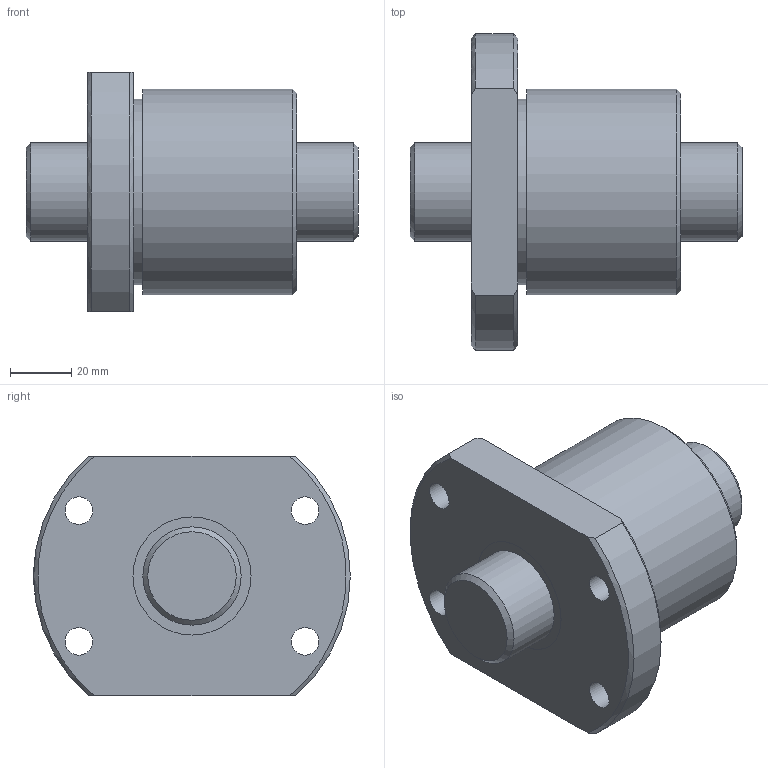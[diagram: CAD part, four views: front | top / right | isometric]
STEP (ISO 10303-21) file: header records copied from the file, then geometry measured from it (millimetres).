
FILE_DESCRIPTION(/* description */ ('STEP AP203'),/* implementation_level */ '2;1');
FILE_NAME(/* name */ 'BTK3210V-2.6ZZ+108LC7T_000',/* time_stamp */ '2025-01-16T07:57:58+01:00',/* author */ ('License CC BY-ND 4.0'),/* organization */ ('CADENAS'),/* preprocessor_version */ 'ST-DEVELOPER v19.3',/* originating_system */ 'PARTsolutions',/* authorisation */ ' ');
FILE_SCHEMA (('CONFIG_CONTROL_DESIGN'));
Length unit declared in the file: millimetre
Products named in the file (3): BTK3210V-2.6ZZ+108LC7T_000; BTK 3210V-2.600 Shaft; BTK 3210V-2.6ZZ Nut
Assembly tree (2 placements, depth 2):
  BTK3210V-2.6ZZ+108LC7T_000
    BTK 3210V-2.600 Shaft
    BTK 3210V-2.6ZZ Nut
Bounding box: 108 x 103 x 78 mm (x, y, z)
Volume: 319472.8 mm3; surface area: 50217.6 mm2
Topology: 2 solids, 2 shells, 31 faces, 66 edges, 43 vertices
Faces by surface type: cylinder 13, plane 10, cone 8
Full cylindrical faces by diameter (mm): 4.917 x1, 9 x4, 32 x2, 38.4 x2, 60.3 x1, 67 x1
Entity records: 887 total; most frequent: CARTESIAN_POINT 170, DIRECTION 140, ORIENTED_EDGE 100, AXIS2_PLACEMENT_3D 66, EDGE_LOOP 62, FACE_BOUND 62, EDGE_CURVE 50, VERTEX_POINT 42
